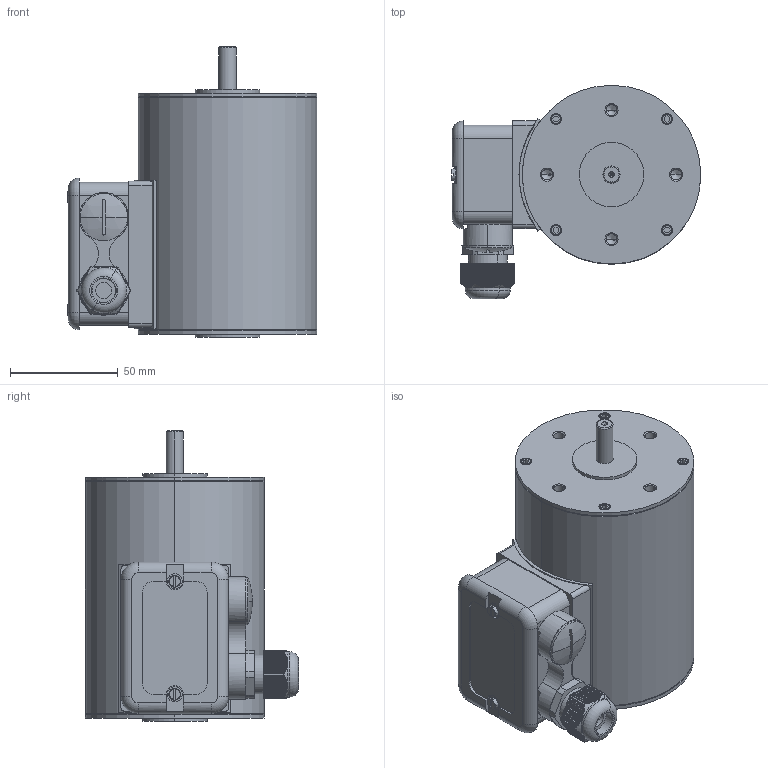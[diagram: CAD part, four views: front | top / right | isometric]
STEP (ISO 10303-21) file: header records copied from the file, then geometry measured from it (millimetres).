
FILE_DESCRIPTION (( 'STEP AP214' ), '1' );
FILE_NAME ('KD862.STEP', '2012-04-16T12:49:25', ( ' ' ), ( '' ), 'SwSTEP 2.0', 'SolidWorks 2010', '' );
FILE_SCHEMA (( 'AUTOMOTIVE_DESIGN' ));
Length unit declared in the file: millimetre
Products named in the file (16): 937202011; 918083020; 935285000_KD 8; 951124003; 951156003; 918088001; 918088000; 918088003; KD862; 937201020; 951120002; 935280002; 935280001; 935285001_Dicke bei Montage; 937205002
Assembly tree (26 placements, depth 4):
  KD862
    951124003  x8
    918083020
      918088000
      918088001
        937205002
        951120002  x2
        935280001  x2
        935280002  x2
        935285001_Dicke bei Montage
      937201020
      951156003  x2
      918088003
      937202011
    935285000_KD 8
    KD862
Bounding box: 116 x 99 x 135 mm (x, y, z)
Volume: 663131.4 mm3; surface area: 89327.1 mm2
Topology: 24 solids, 24 shells, 891 faces, 2285 edges, 1459 vertices
Faces by surface type: plane 418, cylinder 323, cone 128, torus 20, sphere 2
Entity records: 24898 total; most frequent: CARTESIAN_POINT 5272, ORIENTED_EDGE 3882, DIRECTION 3784, EDGE_CURVE 1941, AXIS2_PLACEMENT_3D 1384, VERTEX_POINT 1260, VECTOR 1016, LINE 1016
